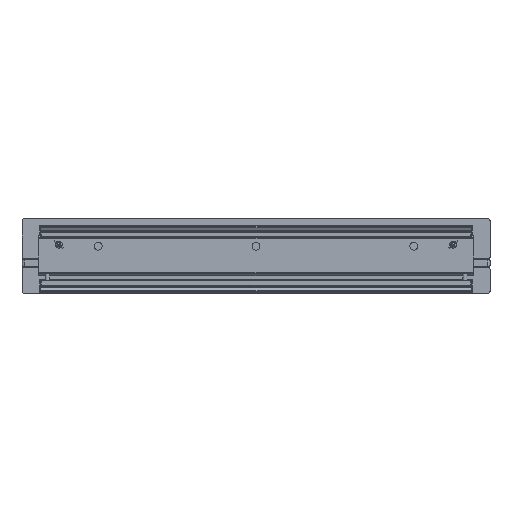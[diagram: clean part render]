
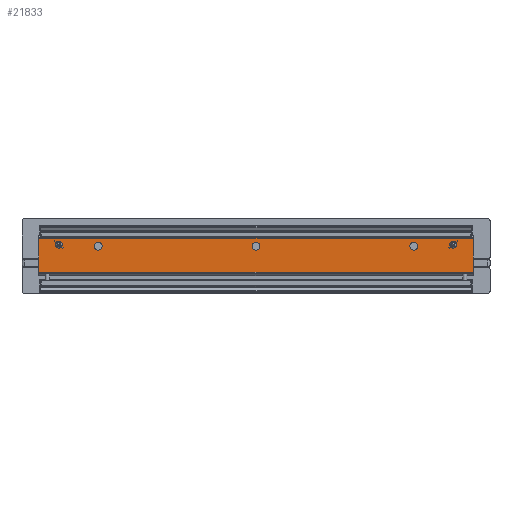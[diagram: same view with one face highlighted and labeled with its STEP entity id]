
A CAD part, top view. The second image highlights one B-rep face of the part: STEP entity #21833.
In plain terms, the highlighted planar face has unit normal (0, 0, 1).
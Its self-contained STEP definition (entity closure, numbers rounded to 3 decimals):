
#177 = LINE ( 'NONE', #29617, #8664 ) ;
#363 = DIRECTION ( 'NONE',  ( 0., 1., 0. ) ) ;
#1115 = EDGE_CURVE ( 'NONE', #16375, #4602, #29304, .T. ) ;
#1571 = EDGE_LOOP ( 'NONE', ( #2105, #26723 ) ) ;
#2041 = EDGE_CURVE ( 'NONE', #7884, #10989, #177, .T. ) ;
#2096 = CARTESIAN_POINT ( 'NONE',  ( -200., -15.8, 0. ) ) ;
#2100 = DIRECTION ( 'NONE',  ( 0., 1., 0. ) ) ;
#2105 = ORIENTED_EDGE ( 'NONE', *, *, #21316, .T. ) ;
#2258 = CARTESIAN_POINT ( 'NONE',  ( 0., -5.8, 0. ) ) ;
#2428 = DIRECTION ( 'NONE',  ( 0., 0., -1. ) ) ;
#2530 = VERTEX_POINT ( 'NONE', #29580 ) ;
#2641 = CARTESIAN_POINT ( 'NONE',  ( 200., -15.8, 0. ) ) ;
#2734 = CARTESIAN_POINT ( 'NONE',  ( 275., -1., 0. ) ) ;
#2766 = CARTESIAN_POINT ( 'NONE',  ( 275., -1., 0. ) ) ;
#3250 = VECTOR ( 'NONE', #6331, 1000. ) ;
#3535 = EDGE_LOOP ( 'NONE', ( #6296, #12682 ) ) ;
#3660 = VERTEX_POINT ( 'NONE', #10214 ) ;
#3719 = CARTESIAN_POINT ( 'NONE',  ( 0., -15.8, 0. ) ) ;
#3949 = ORIENTED_EDGE ( 'NONE', *, *, #4095, .T. ) ;
#4095 = EDGE_CURVE ( 'NONE', #10402, #13692, #15686, .T. ) ;
#4459 = ORIENTED_EDGE ( 'NONE', *, *, #23988, .F. ) ;
#4602 = VERTEX_POINT ( 'NONE', #16786 ) ;
#5211 = CARTESIAN_POINT ( 'NONE',  ( 200., -10.8, 0. ) ) ;
#6296 = ORIENTED_EDGE ( 'NONE', *, *, #14437, .T. ) ;
#6331 = DIRECTION ( 'NONE',  ( -1., 0., 0. ) ) ;
#6359 = LINE ( 'NONE', #11000, #9037 ) ;
#6643 = DIRECTION ( 'NONE',  ( 0., -1., 0. ) ) ;
#7204 = CARTESIAN_POINT ( 'NONE',  ( 0., -10.8, 0. ) ) ;
#7884 = VERTEX_POINT ( 'NONE', #2734 ) ;
#8664 = VECTOR ( 'NONE', #6643, 1000. ) ;
#8826 = AXIS2_PLACEMENT_3D ( 'NONE', #9465, #2428, #27964 ) ;
#9037 = VECTOR ( 'NONE', #22565, 1000. ) ;
#9352 = CARTESIAN_POINT ( 'NONE',  ( 275., -44., 0. ) ) ;
#9465 = CARTESIAN_POINT ( 'NONE',  ( 0., -10.8, 0. ) ) ;
#9467 = AXIS2_PLACEMENT_3D ( 'NONE', #22028, #12707, #21874 ) ;
#9722 = DIRECTION ( 'NONE',  ( 0., 1., 0. ) ) ;
#9994 = DIRECTION ( 'NONE',  ( 0., 1., 0. ) ) ;
#10214 = CARTESIAN_POINT ( 'NONE',  ( -275., -44., 0. ) ) ;
#10402 = VERTEX_POINT ( 'NONE', #3719 ) ;
#10989 = VERTEX_POINT ( 'NONE', #9352 ) ;
#11000 = CARTESIAN_POINT ( 'NONE',  ( -275., -1., 0. ) ) ;
#11496 = ORIENTED_EDGE ( 'NONE', *, *, #21981, .T. ) ;
#11696 = AXIS2_PLACEMENT_3D ( 'NONE', #7204, #16363, #2100 ) ;
#11759 = PLANE ( 'NONE',  #27758 ) ;
#11973 = LINE ( 'NONE', #17092, #22516 ) ;
#12373 = FACE_BOUND ( 'NONE', #1571, .T. ) ;
#12682 = ORIENTED_EDGE ( 'NONE', *, *, #1115, .T. ) ;
#12707 = DIRECTION ( 'NONE',  ( 0., 0., -1. ) ) ;
#13692 = VERTEX_POINT ( 'NONE', #2258 ) ;
#13814 = CARTESIAN_POINT ( 'NONE',  ( -200., -5.8, 0. ) ) ;
#14437 = EDGE_CURVE ( 'NONE', #4602, #16375, #16214, .T. ) ;
#15228 = CIRCLE ( 'NONE', #9467, 5. ) ;
#15245 = AXIS2_PLACEMENT_3D ( 'NONE', #22146, #16808, #9722 ) ;
#15686 = CIRCLE ( 'NONE', #11696, 5. ) ;
#16214 = CIRCLE ( 'NONE', #15245, 5. ) ;
#16261 = CIRCLE ( 'NONE', #28264, 5. ) ;
#16363 = DIRECTION ( 'NONE',  ( 0., 0., -1. ) ) ;
#16375 = VERTEX_POINT ( 'NONE', #2641 ) ;
#16782 = DIRECTION ( 'NONE',  ( 0., 0., -1. ) ) ;
#16786 = CARTESIAN_POINT ( 'NONE',  ( 200., -5.8, 0. ) ) ;
#16808 = DIRECTION ( 'NONE',  ( 0., 0., -1. ) ) ;
#16896 = FACE_OUTER_BOUND ( 'NONE', #18183, .T. ) ;
#17010 = CIRCLE ( 'NONE', #8826, 5. ) ;
#17092 = CARTESIAN_POINT ( 'NONE',  ( 275., -1., 0. ) ) ;
#17287 = EDGE_CURVE ( 'NONE', #13692, #10402, #17010, .T. ) ;
#17532 = VERTEX_POINT ( 'NONE', #2096 ) ;
#18183 = EDGE_LOOP ( 'NONE', ( #11496, #4459, #22991, #18470 ) ) ;
#18470 = ORIENTED_EDGE ( 'NONE', *, *, #19938, .T. ) ;
#18670 = EDGE_LOOP ( 'NONE', ( #19689, #3949 ) ) ;
#19140 = VERTEX_POINT ( 'NONE', #13814 ) ;
#19156 = FACE_BOUND ( 'NONE', #3535, .T. ) ;
#19689 = ORIENTED_EDGE ( 'NONE', *, *, #17287, .T. ) ;
#19938 = EDGE_CURVE ( 'NONE', #7884, #2530, #11973, .T. ) ;
#21285 = CARTESIAN_POINT ( 'NONE',  ( -200., -10.8, 0. ) ) ;
#21316 = EDGE_CURVE ( 'NONE', #19140, #17532, #16261, .T. ) ;
#21833 = ADVANCED_FACE ( 'NONE', ( #12373, #23503, #19156, #16896 ), #11759, .F. ) ;
#21874 = DIRECTION ( 'NONE',  ( 0., 1., 0. ) ) ;
#21981 = EDGE_CURVE ( 'NONE', #2530, #3660, #6359, .T. ) ;
#22028 = CARTESIAN_POINT ( 'NONE',  ( -200., -10.8, 0. ) ) ;
#22146 = CARTESIAN_POINT ( 'NONE',  ( 200., -10.8, 0. ) ) ;
#22516 = VECTOR ( 'NONE', #25959, 1000. ) ;
#22565 = DIRECTION ( 'NONE',  ( 0., -1., 0. ) ) ;
#22991 = ORIENTED_EDGE ( 'NONE', *, *, #2041, .F. ) ;
#23503 = FACE_BOUND ( 'NONE', #18670, .T. ) ;
#23988 = EDGE_CURVE ( 'NONE', #10989, #3660, #29597, .T. ) ;
#25599 = DIRECTION ( 'NONE',  ( 0., 0., -1. ) ) ;
#25939 = DIRECTION ( 'NONE',  ( 0., 1., 0. ) ) ;
#25959 = DIRECTION ( 'NONE',  ( -1., 0., 0. ) ) ;
#26723 = ORIENTED_EDGE ( 'NONE', *, *, #29308, .T. ) ;
#26914 = CARTESIAN_POINT ( 'NONE',  ( 275., -44., 0. ) ) ;
#27758 = AXIS2_PLACEMENT_3D ( 'NONE', #2766, #25599, #363 ) ;
#27964 = DIRECTION ( 'NONE',  ( 0., 1., 0. ) ) ;
#28264 = AXIS2_PLACEMENT_3D ( 'NONE', #21285, #16782, #25939 ) ;
#28349 = AXIS2_PLACEMENT_3D ( 'NONE', #5211, #28625, #9994 ) ;
#28625 = DIRECTION ( 'NONE',  ( 0., 0., -1. ) ) ;
#29304 = CIRCLE ( 'NONE', #28349, 5. ) ;
#29308 = EDGE_CURVE ( 'NONE', #17532, #19140, #15228, .T. ) ;
#29580 = CARTESIAN_POINT ( 'NONE',  ( -275., -1., 0. ) ) ;
#29597 = LINE ( 'NONE', #26914, #3250 ) ;
#29617 = CARTESIAN_POINT ( 'NONE',  ( 275., -1., 0. ) ) ;
